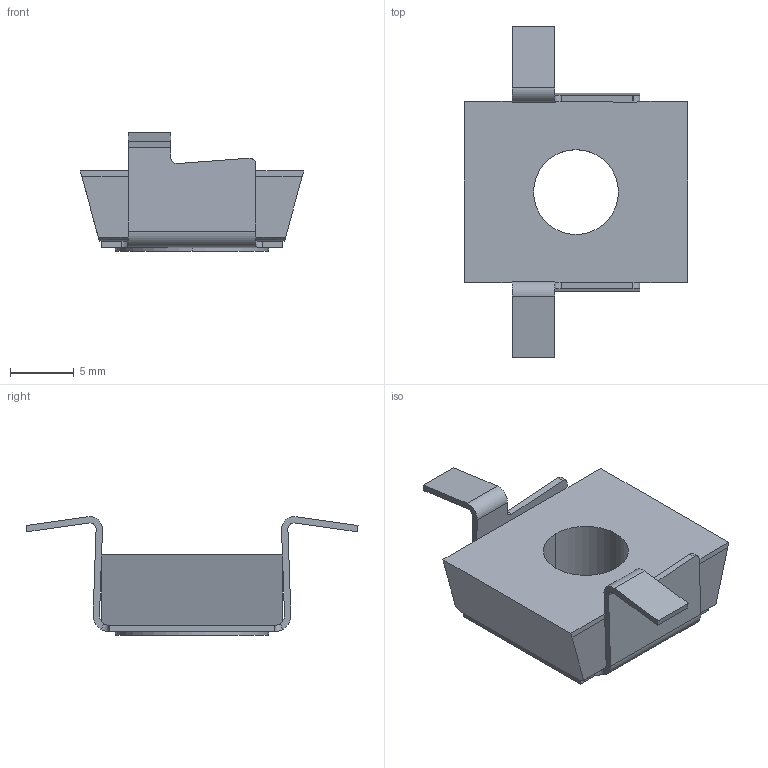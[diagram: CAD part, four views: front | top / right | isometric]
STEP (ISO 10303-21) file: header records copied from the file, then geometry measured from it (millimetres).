
FILE_DESCRIPTION (( 'STEP AP214' ), '1' );
FILE_NAME ('FO-00D-EN-M8-020 Ãàéêà çàêëàäíàÿ Ì8 â êàðêàñíûé ïðîôèëü.STEP', '2025-09-04T08:10:51', ( '' ), ( '' ), 'SwSTEP 2.0', 'SolidWorks 2023', '' );
FILE_SCHEMA (( 'AUTOMOTIVE_DESIGN' ));
Length unit declared in the file: millimetre
Products named in the file (1): FO-00D-EN-M8-020 Гайка закладная М8 в каркасный профиль
Bounding box: 17.5 x 26.01 x 9.31 mm (x, y, z)
Volume: 1251.4 mm3; surface area: 1252.5 mm2
Topology: 1 solids, 1 shells, 66 faces, 181 edges, 114 vertices
Faces by surface type: plane 39, cylinder 23, bspline 4
Entity records: 2314 total; most frequent: CARTESIAN_POINT 614, ORIENTED_EDGE 362, DIRECTION 337, EDGE_CURVE 181, VECTOR 127, LINE 127, VERTEX_POINT 114, AXIS2_PLACEMENT_3D 105
